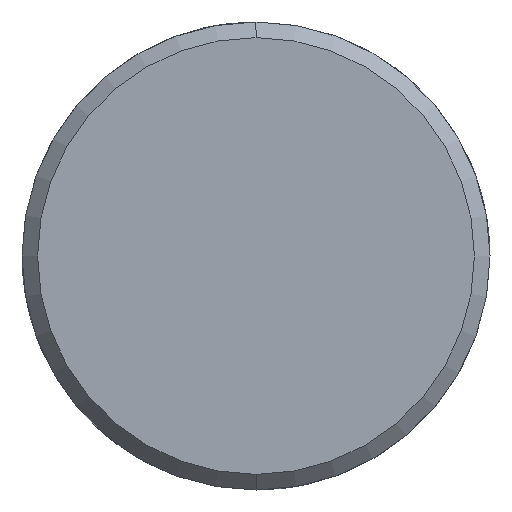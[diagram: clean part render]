
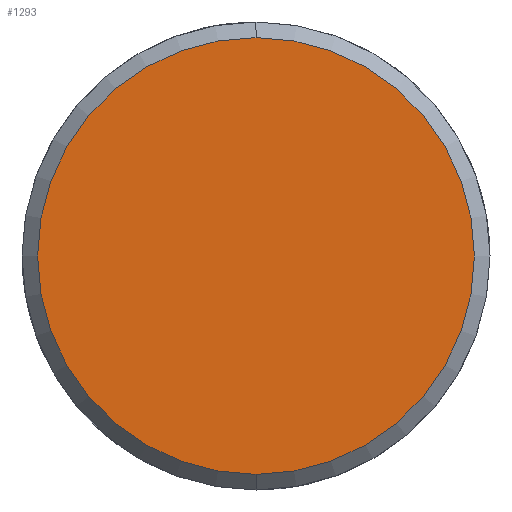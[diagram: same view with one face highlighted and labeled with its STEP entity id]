
A CAD part, left-side view. The second image highlights one B-rep face of the part: STEP entity #1293.
In plain terms, the highlighted planar face has unit normal (-1, 0, 0).
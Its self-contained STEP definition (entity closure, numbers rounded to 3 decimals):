
#1225=CARTESIAN_POINT('Vertex',(-5.,0.,-14.)) ;
#1228=CARTESIAN_POINT('Axis2P3D Location',(-5.,0.,0.)) ;
#1232=CARTESIAN_POINT('Vertex',(-5.,14.,0.)) ;
#1235=CARTESIAN_POINT('Axis2P3D Location',(-5.,0.,0.)) ;
#1239=CARTESIAN_POINT('Vertex',(-5.,0.,14.)) ;
#1261=CARTESIAN_POINT('Axis2P3D Location',(-5.,0.,0.)) ;
#1265=CARTESIAN_POINT('Vertex',(-5.,-14.,0.)) ;
#1268=CARTESIAN_POINT('Axis2P3D Location',(-5.,0.,0.)) ;
#1282=CARTESIAN_POINT('Axis2P3D Location',(-5.,0.,0.)) ;
#1229=DIRECTION('Axis2P3D Direction',(1.,0.,-0.)) ;
#1236=DIRECTION('Axis2P3D Direction',(1.,0.,-0.)) ;
#1262=DIRECTION('Axis2P3D Direction',(1.,0.,-0.)) ;
#1269=DIRECTION('Axis2P3D Direction',(1.,0.,-0.)) ;
#1283=DIRECTION('Axis2P3D Direction',(1.,0.,-0.)) ;
#1284=DIRECTION('Axis2P3D XDirection',(-0.,0.,-1.)) ;
#1230=AXIS2_PLACEMENT_3D('Circle Axis2P3D',#1228,#1229,$) ;
#1237=AXIS2_PLACEMENT_3D('Circle Axis2P3D',#1235,#1236,$) ;
#1263=AXIS2_PLACEMENT_3D('Circle Axis2P3D',#1261,#1262,$) ;
#1270=AXIS2_PLACEMENT_3D('Circle Axis2P3D',#1268,#1269,$) ;
#1285=AXIS2_PLACEMENT_3D('Plane Axis2P3D',#1282,#1283,#1284) ;
#1288=ORIENTED_EDGE('',*,*,#1234,.F.) ;
#1289=ORIENTED_EDGE('',*,*,#1272,.F.) ;
#1290=ORIENTED_EDGE('',*,*,#1267,.F.) ;
#1291=ORIENTED_EDGE('',*,*,#1241,.F.) ;
#1293=ADVANCED_FACE('351-18X46X160',(#1292),#1286,.F.) ;
#1231=CIRCLE('generated circle',#1230,14.) ;
#1238=CIRCLE('generated circle',#1237,14.) ;
#1264=CIRCLE('generated circle',#1263,14.) ;
#1271=CIRCLE('generated circle',#1270,14.) ;
#1234=EDGE_CURVE('',#1226,#1233,#1231,.T.) ;
#1241=EDGE_CURVE('',#1233,#1240,#1238,.T.) ;
#1267=EDGE_CURVE('',#1240,#1266,#1264,.T.) ;
#1272=EDGE_CURVE('',#1266,#1226,#1271,.T.) ;
#1287=EDGE_LOOP('',(#1288,#1289,#1290,#1291)) ;
#1292=FACE_OUTER_BOUND('',#1287,.T.) ;
#1286=PLANE('Plane',#1285) ;
#1226=VERTEX_POINT('',#1225) ;
#1233=VERTEX_POINT('',#1232) ;
#1240=VERTEX_POINT('',#1239) ;
#1266=VERTEX_POINT('',#1265) ;
